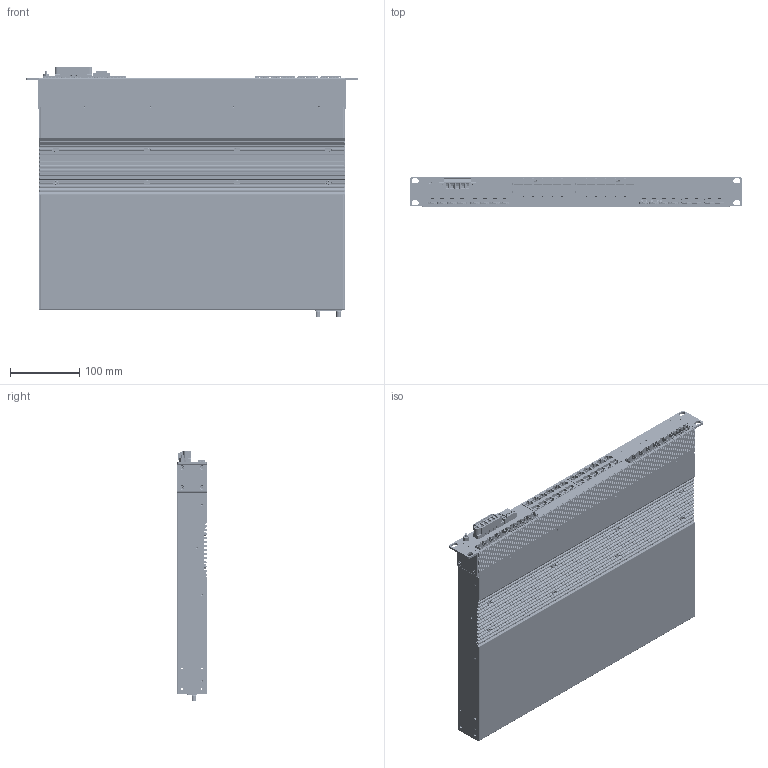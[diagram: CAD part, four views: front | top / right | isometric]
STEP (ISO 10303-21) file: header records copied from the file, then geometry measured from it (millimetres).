
FILE_DESCRIPTION(('TFLEX Exchange Step'),'2;1');
FILE_NAME('STK-EX-06-4000-TA11T08G20GT.stp', '2025-01-30T14:33:55+03:00',('Yuriy Romanov'),('Unknown organisation'),'TFLEX Exchange 2023.2','T-FLEX CAD','Unknown authorisation');
FILE_SCHEMA( ('AUTOMOTIVE_DESIGN { 1 0 10303 214 1 1 1 1 }') );
Length unit declared in the file: millimetre
Products named in the file (1): STK-EX-06-4000-TA11T08G20GT
Bounding box: 480 x 43.8 x 361 mm (x, y, z)
Volume: 655931 mm3; surface area: 956937.7 mm2
Topology: 343 solids, 367 shells, 16067 faces, 46561 edges, 30794 vertices
Faces by surface type: plane 9087, cylinder 6228, cone 433, sphere 154, bspline 84, torus 50, extrusion 31
Full cylindrical faces by diameter (mm): 1 x10, 2 x219, 2.4 x14, 2.459 x2, 2.5 x163, 2.7 x2, 3 x72, 3.3 x4, 3.5 x225, 4 x8, 4.2 x32, 4.4 x2, 4.55 x5, 4.75 x7, 4.85 x10, 4.95 x10, 5 x6, 5.05 x2, 5.247 x2, 5.4 x46, 5.5 x25, 6 x8, 6.3 x34, 6.8 x3, 8 x3, 10 x1
Entity records: 567703 total; most frequent: CARTESIAN_POINT 132472, ORIENTED_EDGE 92762, DIRECTION 89579, EDGE_CURVE 46381, VERTEX_POINT 30794, AXIS2_PLACEMENT_3D 29992, VECTOR 29595, LINE 29564
